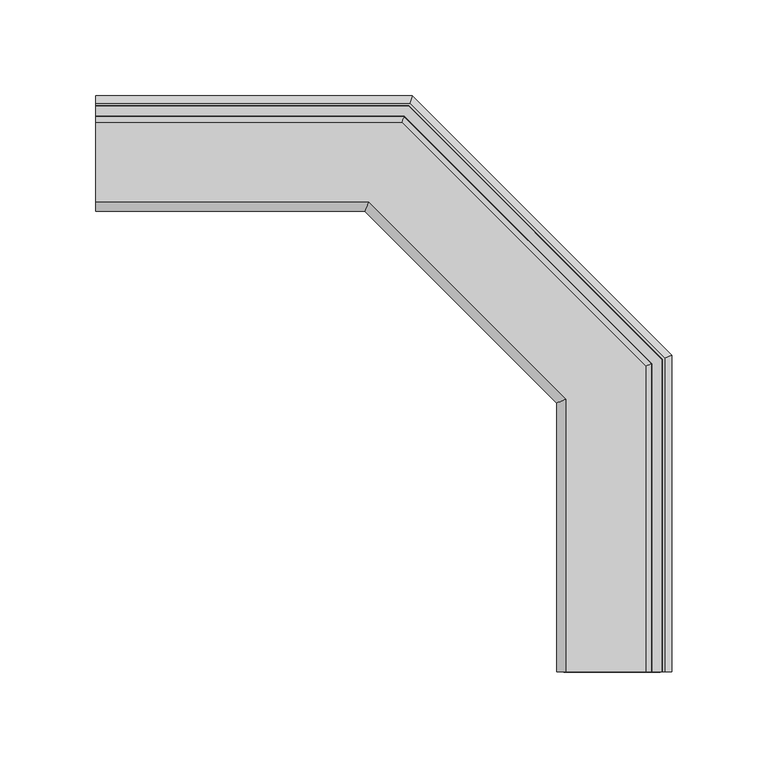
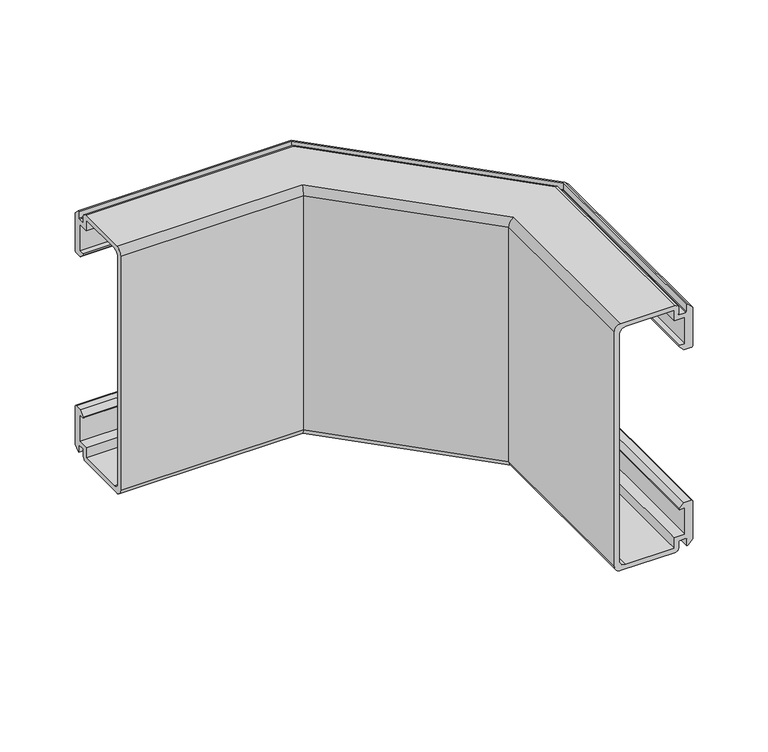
"""IFC4 building model written with IfcOpenShell, lengths in millimetres: cable carrier fitting geometry, CXBPE_Vertical_Outside_Bend-Basorplast : Basorplast CXBPE."""

from ifc_helpers import new_model, si_unit, frame, origin, place, context, project, spatial, polyline, circle_curve, ellipse_curve, source, transform, mapped, element, save
from ifc_brep_helpers import plane_surface, cylinder_surface, revolved_surface, advanced_brep


def cable_carrier_fitting_805e520f(model_context):
    return source(origin(), model_context, "Body", "AdvancedBrep", [
        advanced_brep(
        [(-240.0, 49.6464466, -65.6464466), (-240.0, 53.2928932, -62.0), (-240.0, 59.0, -62.0), (-240.0, 60.0, -63.0), (-240.0, 60.0, -93.8), (-240.0, 56.3, -97.5), (-240.0, 55.3, -97.5), (-240.0, 55.3, -92.0), (-240.0, 54.8, -91.5), (-240.0, 49.8, -91.5), (-240.0, 49.3, -92.0), (-240.0, 49.3, -97.0), (-240.0, 46.3, -100.0), (-240.0, 5.0, -100.0), (-240.0, 0.0, -95.0), (-240.0, 0.0, 95.0), (-240.0, 5.0, 100.0), (-240.0, 46.3, 100.0), (-240.0, 49.3, 97.0), (-240.0, 49.3, 92.0), (-240.0, 49.8, 91.5), (-240.0, 54.8, 91.5), (-240.0, 55.3, 92.0), (-240.0, 55.3, 97.5), (-240.0, 56.3, 97.5), (-240.0, 60.0, 93.8), (-240.0, 60.0, 63.0), (-240.0, 59.0, 62.0), (-240.0, 53.2928932, 62.0), (-240.0, 49.6464466, 65.6464466), (-240.0, 50.0, 66.5), (-240.0, 54.0, 66.5), (-240.0, 54.0, 87.9), (-240.0, 45.7, 87.9), (-240.0, 45.7, 96.4), (-240.0, 8.6, 96.4), (-240.0, 3.6, 91.4), (-240.0, 3.6, -91.4), (-240.0, 8.6, -96.4), (-240.0, 45.7, -96.4), (-240.0, 45.7, -87.9), (-240.0, 54.0, -87.9), (-240.0, 54.0, -66.5), (-240.0, 50.0, -66.5), (49.6464466, -240.0, -65.6464466), (50.0, -240.0, -66.5), (54.0, -240.0, -66.5), (54.0, -240.0, -87.9), (45.7, -240.0, -87.9), (45.7, -240.0, -96.4), (8.6, -240.0, -96.4), (3.6, -240.0, -91.4), (3.6, -240.0, 91.4), (8.6, -240.0, 96.4), (45.7, -240.0, 96.4), (45.7, -240.0, 87.9), (54.0, -240.0, 87.9), (54.0, -240.0, 66.5), (50.0, -240.0, 66.5), (49.6464466, -240.0, 65.6464466), (53.2928932, -240.0, 62.0), (59.0, -240.0, 62.0), (60.0, -240.0, 63.0), (60.0, -240.0, 93.8), (56.3, -240.0, 97.5), (55.3, -240.0, 97.5), (55.3, -240.0, 92.0), (54.8, -240.0, 91.5), (49.8, -240.0, 91.5), (49.3, -240.0, 92.0), (49.3, -240.0, 97.0), (46.3, -240.0, 100.0), (5.0, -240.0, 100.0), (0.0, -240.0, 95.0), (0.0, -240.0, -95.0), (5.0, -240.0, -100.0), (46.3, -240.0, -100.0), (49.3, -240.0, -97.0), (49.3, -240.0, -92.0), (49.8, -240.0, -91.5), (54.8, -240.0, -91.5), (55.3, -240.0, -92.0), (55.3, -240.0, -97.5), (56.3, -240.0, -97.5), (60.0, -240.0, -93.8), (60.0, -240.0, -63.0), (59.0, -240.0, -62.0), (53.2928932, -240.0, -62.0), (-79.2893219, 50.0, -66.5), (-79.4357685, 49.6464466, -65.6464466), (-77.6324676, 54.0, -66.5), (54.0, -77.6324676, -66.5), (50.0, -79.2893219, -66.5), (-77.6324676, 54.0, -87.9), (-81.0704402, 45.7, -87.9), (45.7, -81.0704402, -87.9), (54.0, -77.6324676, -87.9), (-81.0704402, 45.7, -96.4), (-96.4377634, 8.6, -96.4), (8.6, -96.4377634, -96.4), (45.7, -81.0704402, -96.4), (-98.5088312, 3.6, -91.4), (-98.5088312, 3.6, 91.4), (-96.4377634, 8.6, 96.4), (-81.0704402, 45.7, 96.4), (45.7, -81.0704402, 96.4), (8.6, -96.4377634, 96.4), (-81.0704402, 45.7, 87.9), (-77.6324676, 54.0, 87.9), (54.0, -77.6324676, 87.9), (45.7, -81.0704402, 87.9), (-77.6324676, 54.0, 66.5), (-79.2893219, 50.0, 66.5), (50.0, -79.2893219, 66.5), (54.0, -77.6324676, 66.5), (-79.4357685, 49.6464466, 65.6464466), (-77.9253609, 53.2928932, 62.0), (-75.5613998, 59.0, 62.0), (59.0, -75.5613998, 62.0), (53.2928932, -77.9253609, 62.0), (-75.1471863, 60.0, 63.0), (-75.1471863, 60.0, 93.8), (-76.6797764, 56.3, 97.5), (-77.09399, 55.3, 97.5), (55.3, -77.09399, 97.5), (56.3, -76.6797764, 97.5), (-77.09399, 55.3, 92.0), (-77.3010968, 54.8, 91.5), (-79.3721646, 49.8, 91.5), (49.8, -79.3721646, 91.5), (54.8, -77.3010968, 91.5), (-79.5792714, 49.3, 92.0), (-79.5792714, 49.3, 97.0), (-80.8219121, 46.3, 100.0), (-97.9289322, 5.0, 100.0), (5.0, -97.9289322, 100.0), (46.3, -80.8219121, 100.0), (-100.0, 0.0, 95.0), (-100.0, 0.0, -95.0), (-97.9289322, 5.0, -100.0), (-80.8219121, 46.3, -100.0), (46.3, -80.8219121, -100.0), (5.0, -97.9289322, -100.0), (-79.5792714, 49.3, -97.0), (-79.5792714, 49.3, -92.0), (-79.3721646, 49.8, -91.5), (-77.3010968, 54.8, -91.5), (54.8, -77.3010968, -91.5), (49.8, -79.3721646, -91.5), (-77.09399, 55.3, -92.0), (-77.09399, 55.3, -97.5), (-76.6797764, 56.3, -97.5), (56.3, -76.6797764, -97.5), (55.3, -77.09399, -97.5), (-75.1471863, 60.0, -93.8), (-75.1471863, 60.0, -63.0), (-75.5613998, 59.0, -62.0), (-77.9253609, 53.2928932, -62.0), (53.2928932, -77.9253609, -62.0), (59.0, -75.5613998, -62.0), (49.6464466, -79.4357685, -65.6464466), (3.6, -98.5088312, -91.4), (3.6, -98.5088312, 91.4), (49.6464466, -79.4357685, 65.6464466), (60.0, -75.1471863, 63.0), (60.0, -75.1471863, 93.8), (55.3, -77.09399, 92.0), (49.3, -79.5792714, 92.0), (49.3, -79.5792714, 97.0), (0.0, -100.0, 95.0), (0.0, -100.0, -95.0), (49.3, -79.5792714, -97.0), (49.3, -79.5792714, -92.0), (55.3, -77.09399, -92.0), (60.0, -75.1471863, -93.8), (60.0, -75.1471863, -63.0)],
        [
            (0, 1),
            (1, 2),
            (2, 3, circle_curve(frame((-240.0, 59.0, -63.0), z_axis=(-1.0, 0.0, 0.0), x_axis=(0.0, 0.0, 1.0)), 1.0)),
            (3, 4),
            (4, 5),
            (5, 6),
            (6, 7),
            (7, 8, circle_curve(frame((-240.0, 54.8, -92.0), z_axis=(1.0, 0.0, 0.0), x_axis=(0.0, 0.0, 1.0)), 0.5)),
            (8, 9),
            (9, 10, circle_curve(frame((-240.0, 49.8, -92.0), z_axis=(1.0, 0.0, 0.0), x_axis=(0.0, 0.0, 1.0)), 0.5)),
            (10, 11),
            (11, 12, circle_curve(frame((-240.0, 46.3, -97.0), z_axis=(-1.0, 0.0, 0.0), x_axis=(0.0, 0.0, 1.0)), 3.0)),
            (12, 13),
            (13, 14, circle_curve(frame((-240.0, 5.0, -95.0), z_axis=(-1.0, 0.0, 0.0), x_axis=(0.0, 0.0, 1.0)), 5.0)),
            (14, 15),
            (15, 16, circle_curve(frame((-240.0, 5.0, 95.0), z_axis=(-1.0, 0.0, 0.0), x_axis=(0.0, 0.0, 1.0)), 5.0)),
            (16, 17),
            (17, 18, circle_curve(frame((-240.0, 46.3, 97.0), z_axis=(-1.0, 0.0, 0.0), x_axis=(0.0, 0.0, 1.0)), 3.0)),
            (18, 19),
            (19, 20, circle_curve(frame((-240.0, 49.8, 92.0), z_axis=(1.0, 0.0, 0.0), x_axis=(0.0, 0.0, 1.0)), 0.5)),
            (20, 21),
            (21, 22, circle_curve(frame((-240.0, 54.8, 92.0), z_axis=(1.0, 0.0, 0.0), x_axis=(0.0, 0.0, 1.0)), 0.5)),
            (22, 23),
            (23, 24),
            (24, 25),
            (25, 26),
            (26, 27, circle_curve(frame((-240.0, 59.0, 63.0), z_axis=(-1.0, 0.0, 0.0), x_axis=(0.0, 0.0, 1.0)), 1.0)),
            (27, 28),
            (28, 29),
            (29, 30, circle_curve(frame((-240.0, 50.0, 66.0), z_axis=(-1.0, 0.0, 0.0), x_axis=(0.0, 0.0, 1.0)), 0.5)),
            (30, 31),
            (31, 32),
            (32, 33),
            (33, 34),
            (34, 35),
            (35, 36, circle_curve(frame((-240.0, 8.6, 91.4), z_axis=(1.0, 0.0, 0.0), x_axis=(0.0, 0.0, 1.0)), 5.0)),
            (36, 37),
            (37, 38, circle_curve(frame((-240.0, 8.6, -91.4), z_axis=(1.0, 0.0, 0.0), x_axis=(0.0, 0.0, 1.0)), 5.0)),
            (38, 39),
            (39, 40),
            (40, 41),
            (41, 42),
            (42, 43),
            (43, 0, circle_curve(frame((-240.0, 50.0, -66.0), z_axis=(-1.0, 0.0, 0.0), x_axis=(0.0, 0.0, 1.0)), 0.5)),
            (44, 45, circle_curve(frame((50.0, -240.0, -66.0), z_axis=(0.0, -1.0, 0.0), x_axis=(0.0, 0.0, 1.0)), 0.5)),
            (45, 46),
            (46, 47),
            (47, 48),
            (48, 49),
            (49, 50),
            (50, 51, circle_curve(frame((8.6, -240.0, -91.4), z_axis=(0.0, 1.0, 0.0), x_axis=(0.0, 0.0, 1.0)), 5.0)),
            (51, 52),
            (52, 53, circle_curve(frame((8.6, -240.0, 91.4), z_axis=(0.0, 1.0, 0.0), x_axis=(0.0, 0.0, 1.0)), 5.0)),
            (53, 54),
            (54, 55),
            (55, 56),
            (56, 57),
            (57, 58),
            (58, 59, circle_curve(frame((50.0, -240.0, 66.0), z_axis=(0.0, -1.0, 0.0), x_axis=(0.0, 0.0, 1.0)), 0.5)),
            (59, 60),
            (60, 61),
            (61, 62, circle_curve(frame((59.0, -240.0, 63.0), z_axis=(0.0, -1.0, 0.0), x_axis=(0.0, 0.0, 1.0)), 1.0)),
            (62, 63),
            (63, 64),
            (64, 65),
            (65, 66),
            (66, 67, circle_curve(frame((54.8, -240.0, 92.0), z_axis=(0.0, 1.0, 0.0), x_axis=(0.0, 0.0, 1.0)), 0.5)),
            (67, 68),
            (68, 69, circle_curve(frame((49.8, -240.0, 92.0), z_axis=(0.0, 1.0, 0.0), x_axis=(0.0, 0.0, 1.0)), 0.5)),
            (69, 70),
            (70, 71, circle_curve(frame((46.3, -240.0, 97.0), z_axis=(0.0, -1.0, 0.0), x_axis=(0.0, 0.0, 1.0)), 3.0)),
            (71, 72),
            (72, 73, circle_curve(frame((5.0, -240.0, 95.0), z_axis=(0.0, -1.0, 0.0), x_axis=(0.0, 0.0, 1.0)), 5.0)),
            (73, 74),
            (74, 75, circle_curve(frame((5.0, -240.0, -95.0), z_axis=(0.0, -1.0, 0.0), x_axis=(0.0, 0.0, 1.0)), 5.0)),
            (75, 76),
            (76, 77, circle_curve(frame((46.3, -240.0, -97.0), z_axis=(0.0, -1.0, 0.0), x_axis=(0.0, 0.0, 1.0)), 3.0)),
            (77, 78),
            (78, 79, circle_curve(frame((49.8, -240.0, -92.0), z_axis=(0.0, 1.0, 0.0), x_axis=(0.0, 0.0, 1.0)), 0.5)),
            (79, 80),
            (80, 81, circle_curve(frame((54.8, -240.0, -92.0), z_axis=(0.0, 1.0, 0.0), x_axis=(0.0, 0.0, 1.0)), 0.5)),
            (81, 82),
            (82, 83),
            (83, 84),
            (84, 85),
            (85, 86, circle_curve(frame((59.0, -240.0, -63.0), z_axis=(0.0, -1.0, 0.0), x_axis=(0.0, 0.0, 1.0)), 1.0)),
            (86, 87),
            (87, 44),
            (43, 88),
            (88, 89, ellipse_curve(frame((-79.2893219, 50.0, -66.0), z_axis=(-0.923879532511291, 0.3826834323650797, 0.0), x_axis=(-0.3826834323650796, -0.9238795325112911, 0.0)), 0.5411961, 0.5)),
            (89, 0),
            (42, 90),
            (90, 91),
            (91, 46),
            (45, 92),
            (92, 88),
            (41, 93),
            (93, 90),
            (40, 94),
            (94, 95),
            (95, 48),
            (47, 96),
            (96, 93),
            (39, 97),
            (97, 94),
            (38, 98),
            (98, 99),
            (99, 50),
            (49, 100),
            (100, 97),
            (37, 101),
            (101, 98, ellipse_curve(frame((-96.4377634, 8.6, -91.4), z_axis=(0.923879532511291, -0.3826834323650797, 0.0), x_axis=(0.3826834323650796, 0.9238795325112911, 0.0)), 5.411961, 5.0)),
            (36, 102),
            (102, 101),
            (35, 103),
            (103, 102, ellipse_curve(frame((-96.4377634, 8.6, 91.4), z_axis=(0.923879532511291, -0.3826834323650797, 0.0), x_axis=(0.3826834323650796, 0.9238795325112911, 0.0)), 5.411961, 5.0)),
            (34, 104),
            (104, 105),
            (105, 54),
            (53, 106),
            (106, 103),
            (33, 107),
            (107, 104),
            (32, 108),
            (108, 109),
            (109, 56),
            (55, 110),
            (110, 107),
            (31, 111),
            (111, 108),
            (30, 112),
            (112, 113),
            (113, 58),
            (57, 114),
            (114, 111),
            (29, 115),
            (115, 112, ellipse_curve(frame((-79.2893219, 50.0, 66.0), z_axis=(-0.923879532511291, 0.3826834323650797, 0.0), x_axis=(-0.3826834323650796, -0.9238795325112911, 0.0)), 0.5411961, 0.5)),
            (28, 116),
            (116, 115),
            (27, 117),
            (117, 118),
            (118, 61),
            (60, 119),
            (119, 116),
            (26, 120),
            (120, 117, ellipse_curve(frame((-75.5613998, 59.0, 63.0), z_axis=(-0.923879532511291, 0.3826834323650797, 0.0), x_axis=(-0.3826834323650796, -0.9238795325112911, 0.0)), 1.0823922, 1.0)),
            (25, 121),
            (121, 120),
            (24, 122),
            (122, 121),
            (23, 123),
            (123, 124),
            (124, 65),
            (64, 125),
            (125, 122),
            (22, 126),
            (126, 123),
            (21, 127),
            (127, 126, ellipse_curve(frame((-77.3010968, 54.8, 92.0), z_axis=(0.923879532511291, -0.3826834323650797, 0.0), x_axis=(0.3826834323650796, 0.9238795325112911, 0.0)), 0.5411961, 0.5)),
            (20, 128),
            (128, 129),
            (129, 68),
            (67, 130),
            (130, 127),
            (19, 131),
            (131, 128, ellipse_curve(frame((-79.3721646, 49.8, 92.0), z_axis=(0.923879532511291, -0.3826834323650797, 0.0), x_axis=(0.3826834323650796, 0.9238795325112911, 0.0)), 0.5411961, 0.5)),
            (18, 132),
            (132, 131),
            (17, 133),
            (133, 132, ellipse_curve(frame((-80.8219121, 46.3, 97.0), z_axis=(-0.923879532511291, 0.3826834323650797, 0.0), x_axis=(-0.3826834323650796, -0.9238795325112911, 0.0)), 3.2471766, 3.0)),
            (16, 134),
            (134, 135),
            (135, 72),
            (71, 136),
            (136, 133),
            (15, 137),
            (137, 134, ellipse_curve(frame((-97.9289322, 5.0, 95.0), z_axis=(-0.923879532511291, 0.3826834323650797, 0.0), x_axis=(-0.3826834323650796, -0.9238795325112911, 0.0)), 5.411961, 5.0)),
            (14, 138),
            (138, 137),
            (13, 139),
            (139, 138, ellipse_curve(frame((-97.9289322, 5.0, -95.0), z_axis=(-0.923879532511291, 0.3826834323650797, 0.0), x_axis=(-0.3826834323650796, -0.9238795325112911, 0.0)), 5.411961, 5.0)),
            (12, 140),
            (140, 141),
            (141, 76),
            (75, 142),
            (142, 139),
            (11, 143),
            (143, 140, ellipse_curve(frame((-80.8219121, 46.3, -97.0), z_axis=(-0.923879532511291, 0.3826834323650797, 0.0), x_axis=(-0.3826834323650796, -0.9238795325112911, 0.0)), 3.2471766, 3.0)),
            (10, 144),
            (144, 143),
            (9, 145),
            (145, 144, ellipse_curve(frame((-79.3721646, 49.8, -92.0), z_axis=(0.923879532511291, -0.3826834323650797, 0.0), x_axis=(0.3826834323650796, 0.9238795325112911, 0.0)), 0.5411961, 0.5)),
            (8, 146),
            (146, 147),
            (147, 80),
            (79, 148),
            (148, 145),
            (7, 149),
            (149, 146, ellipse_curve(frame((-77.3010968, 54.8, -92.0), z_axis=(0.923879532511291, -0.3826834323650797, 0.0), x_axis=(0.3826834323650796, 0.9238795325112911, 0.0)), 0.5411961, 0.5)),
            (6, 150),
            (150, 149),
            (5, 151),
            (151, 152),
            (152, 83),
            (82, 153),
            (153, 150),
            (4, 154),
            (154, 151),
            (3, 155),
            (155, 154),
            (2, 156),
            (156, 155, ellipse_curve(frame((-75.5613998, 59.0, -63.0), z_axis=(-0.923879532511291, 0.3826834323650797, 0.0), x_axis=(-0.3826834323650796, -0.9238795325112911, 0.0)), 1.0823922, 1.0)),
            (1, 157),
            (157, 158),
            (158, 87),
            (86, 159),
            (159, 156),
            (89, 157),
            (44, 160),
            (160, 92, ellipse_curve(frame((50.0, -79.2893219, -66.0), z_axis=(0.38268343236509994, -0.9238795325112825, 0.0), x_axis=(0.9238795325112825, 0.38268343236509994, 0.0)), 0.5411961, 0.5)),
            (91, 96),
            (95, 100),
            (161, 51),
            (99, 161, ellipse_curve(frame((8.6, -96.4377634, -91.4), z_axis=(-0.38268343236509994, 0.9238795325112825, 0.0), x_axis=(-0.9238795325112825, -0.38268343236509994, 0.0)), 5.411961, 5.0)),
            (162, 52),
            (161, 162),
            (162, 106, ellipse_curve(frame((8.6, -96.4377634, 91.4), z_axis=(-0.38268343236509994, 0.9238795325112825, 0.0), x_axis=(-0.9238795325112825, -0.38268343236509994, 0.0)), 5.411961, 5.0)),
            (105, 110),
            (109, 114),
            (163, 59),
            (113, 163, ellipse_curve(frame((50.0, -79.2893219, 66.0), z_axis=(0.38268343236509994, -0.9238795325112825, 0.0), x_axis=(0.9238795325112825, 0.38268343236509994, 0.0)), 0.5411961, 0.5)),
            (163, 119),
            (164, 62),
            (118, 164, ellipse_curve(frame((59.0, -75.5613998, 63.0), z_axis=(0.38268343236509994, -0.9238795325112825, 0.0), x_axis=(0.9238795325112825, 0.38268343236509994, 0.0)), 1.0823922, 1.0)),
            (165, 63),
            (164, 165),
            (165, 125),
            (166, 66),
            (124, 166),
            (166, 130, ellipse_curve(frame((54.8, -77.3010968, 92.0), z_axis=(-0.38268343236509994, 0.9238795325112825, 0.0), x_axis=(-0.9238795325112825, -0.38268343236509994, 0.0)), 0.5411961, 0.5)),
            (167, 69),
            (129, 167, ellipse_curve(frame((49.8, -79.3721646, 92.0), z_axis=(-0.38268343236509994, 0.9238795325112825, 0.0), x_axis=(-0.9238795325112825, -0.38268343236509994, 0.0)), 0.5411961, 0.5)),
            (168, 70),
            (167, 168),
            (168, 136, ellipse_curve(frame((46.3, -80.8219121, 97.0), z_axis=(0.38268343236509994, -0.9238795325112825, 0.0), x_axis=(0.9238795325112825, 0.38268343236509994, 0.0)), 3.2471766, 3.0)),
            (169, 73),
            (135, 169, ellipse_curve(frame((5.0, -97.9289322, 95.0), z_axis=(0.38268343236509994, -0.9238795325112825, 0.0), x_axis=(0.9238795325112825, 0.38268343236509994, 0.0)), 5.411961, 5.0)),
            (170, 74),
            (169, 170),
            (170, 142, ellipse_curve(frame((5.0, -97.9289322, -95.0), z_axis=(0.38268343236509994, -0.9238795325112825, 0.0), x_axis=(0.9238795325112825, 0.38268343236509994, 0.0)), 5.411961, 5.0)),
            (171, 77),
            (141, 171, ellipse_curve(frame((46.3, -80.8219121, -97.0), z_axis=(0.38268343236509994, -0.9238795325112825, 0.0), x_axis=(0.9238795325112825, 0.38268343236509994, 0.0)), 3.2471766, 3.0)),
            (172, 78),
            (171, 172),
            (172, 148, ellipse_curve(frame((49.8, -79.3721646, -92.0), z_axis=(-0.38268343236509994, 0.9238795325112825, 0.0), x_axis=(-0.9238795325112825, -0.38268343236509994, 0.0)), 0.5411961, 0.5)),
            (173, 81),
            (147, 173, ellipse_curve(frame((54.8, -77.3010968, -92.0), z_axis=(-0.38268343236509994, 0.9238795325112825, 0.0), x_axis=(-0.9238795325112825, -0.38268343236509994, 0.0)), 0.5411961, 0.5)),
            (173, 153),
            (174, 84),
            (152, 174),
            (175, 85),
            (174, 175),
            (175, 159, ellipse_curve(frame((59.0, -75.5613998, -63.0), z_axis=(0.38268343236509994, -0.9238795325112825, 0.0), x_axis=(0.9238795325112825, 0.38268343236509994, 0.0)), 1.0823922, 1.0)),
            (158, 160),
            (160, 89),
            (101, 161),
            (102, 162),
            (115, 163),
            (120, 164),
            (121, 165),
            (126, 166),
            (131, 167),
            (132, 168),
            (137, 169),
            (138, 170),
            (143, 171),
            (144, 172),
            (149, 173),
            (154, 174),
            (155, 175),
        ],
        [
            plane_surface(frame((-240.0, 30.0, 0.0), z_axis=(-1.0, 0.0, 0.0), x_axis=(0.0, 0.0, 1.0))),
            plane_surface(frame((30.0, -240.0, 0.0), z_axis=(0.0, -1.0, 0.0), x_axis=(0.0, 0.0, 1.0))),
            cylinder_surface(frame((-240.0, 50.0, -66.0), z_axis=(-1.0, 0.0, 0.0), x_axis=(0.0, 0.0, 1.0)), 0.5),
            plane_surface(frame((-240.0, 50.0, -66.5), z_axis=(0.0, 0.0, -1.0), x_axis=(1.0, 0.0, 0.0))),
            plane_surface(frame((-240.0, 54.0, -66.5), z_axis=(0.0, -1.0, 0.0), x_axis=(1.0, 0.0, 0.0))),
            plane_surface(frame((-240.0, 54.0, -87.9), z_axis=(0.0, 0.0, 1.0), x_axis=(1.0, 0.0, 0.0))),
            plane_surface(frame((-240.0, 45.7, -87.9), z_axis=(0.0, -1.0, 0.0), x_axis=(1.0, 0.0, 0.0))),
            plane_surface(frame((-240.0, 45.7, -96.4), z_axis=(0.0, 0.0, 1.0), x_axis=(1.0, 0.0, 0.0))),
            revolved_surface(polyline([(-94.36669558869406, 8.6, -86.4), (-240.0, 8.6, -86.4)]), (-240.0, 8.6, -91.4), (1.0, 0.0, 0.0)),
            plane_surface(frame((-240.0, 3.6, -91.4), z_axis=(0.0, 1.0, 0.0), x_axis=(1.0, 0.0, 0.0))),
            revolved_surface(polyline([(-94.36669558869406, 8.6, 96.4), (-240.0, 8.6, 96.4)]), (-240.0, 8.6, 91.4), (1.0, 0.0, 0.0)),
            plane_surface(frame((-240.0, 8.6, 96.4), z_axis=(0.0, 0.0, -1.0), x_axis=(1.0, 0.0, 0.0))),
            plane_surface(frame((-240.0, 45.7, 96.4), z_axis=(0.0, -1.0, 0.0), x_axis=(1.0, 0.0, 0.0))),
            plane_surface(frame((-240.0, 45.7, 87.9), z_axis=(0.0, 0.0, -1.0), x_axis=(1.0, 0.0, 0.0))),
            plane_surface(frame((-240.0, 54.0, 87.9), z_axis=(0.0, -1.0, 0.0), x_axis=(1.0, 0.0, 0.0))),
            plane_surface(frame((-240.0, 54.0, 66.5), z_axis=(0.0, 0.0, 1.0), x_axis=(1.0, 0.0, 0.0))),
            cylinder_surface(frame((-240.0, 50.0, 66.0), z_axis=(-1.0, 0.0, 0.0), x_axis=(0.0, 0.0, 1.0)), 0.5),
            plane_surface(frame((-240.0, 49.6464466, 65.6464466), z_axis=(0.0, -0.7071067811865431, -0.707106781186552), x_axis=(1.0, 0.0, 0.0))),
            plane_surface(frame((-240.0, 53.2928932, 62.0), z_axis=(0.0, 0.0, -1.0), x_axis=(1.0, 0.0, 0.0))),
            cylinder_surface(frame((-240.0, 59.0, 63.0), z_axis=(-1.0, 0.0, 0.0), x_axis=(0.0, 0.0, 1.0)), 1.0),
            plane_surface(frame((-240.0, 60.0, 63.0), z_axis=(0.0, 1.0, 0.0), x_axis=(1.0, 0.0, 0.0))),
            plane_surface(frame((-240.0, 60.0, 93.8), z_axis=(0.0, 0.7071067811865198, 0.7071067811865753), x_axis=(1.0, 0.0, 0.0))),
            plane_surface(frame((-240.0, 56.3, 97.5), z_axis=(0.0, 0.0, 1.0), x_axis=(1.0, 0.0, 0.0))),
            plane_surface(frame((-240.0, 55.3, 97.5), z_axis=(0.0, -1.0, 0.0), x_axis=(1.0, 0.0, 0.0))),
            revolved_surface(polyline([(-77.09399000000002, 54.8, 92.5), (-240.0, 54.8, 92.5)]), (-240.0, 54.8, 92.0), (1.0, 0.0, 0.0)),
            plane_surface(frame((-240.0, 54.8, 91.5), z_axis=(0.0, 0.0, 1.0), x_axis=(1.0, 0.0, 0.0))),
            revolved_surface(polyline([(-79.16505781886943, 49.8, 92.5), (-240.0, 49.8, 92.5)]), (-240.0, 49.8, 92.0), (1.0, 0.0, 0.0)),
            plane_surface(frame((-240.0, 49.3, 92.0), z_axis=(0.0, 1.0, 0.0), x_axis=(1.0, 0.0, 0.0))),
            cylinder_surface(frame((-240.0, 46.3, 97.0), z_axis=(-1.0, 0.0, 0.0), x_axis=(0.0, 0.0, 1.0)), 3.0),
            plane_surface(frame((-240.0, 46.3, 100.0), z_axis=(0.0, 0.0, 1.0), x_axis=(1.0, 0.0, 0.0))),
            cylinder_surface(frame((-240.0, 5.0, 95.0), z_axis=(-1.0, 0.0, 0.0), x_axis=(0.0, 0.0, 1.0)), 5.0),
            plane_surface(frame((-240.0, 0.0, 95.0), z_axis=(0.0, -1.0, 0.0), x_axis=(1.0, 0.0, 0.0))),
            cylinder_surface(frame((-240.0, 5.0, -95.0), z_axis=(-1.0, 0.0, 0.0), x_axis=(0.0, 0.0, 1.0)), 5.0),
            plane_surface(frame((-240.0, 5.0, -100.0), z_axis=(0.0, 0.0, -1.0), x_axis=(1.0, 0.0, 0.0))),
            cylinder_surface(frame((-240.0, 46.3, -97.0), z_axis=(-1.0, 0.0, 0.0), x_axis=(0.0, 0.0, 1.0)), 3.0),
            plane_surface(frame((-240.0, 49.3, -97.0), z_axis=(0.0, 1.0, 0.0), x_axis=(1.0, 0.0, 0.0))),
            revolved_surface(polyline([(-79.16505781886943, 49.8, -91.5), (-240.0, 49.8, -91.5)]), (-240.0, 49.8, -92.0), (1.0, 0.0, 0.0)),
            plane_surface(frame((-240.0, 49.8, -91.5), z_axis=(0.0, 0.0, -1.0), x_axis=(1.0, 0.0, 0.0))),
            revolved_surface(polyline([(-77.09399000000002, 54.8, -91.5), (-240.0, 54.8, -91.5)]), (-240.0, 54.8, -92.0), (1.0, 0.0, 0.0)),
            plane_surface(frame((-240.0, 55.3, -92.0), z_axis=(0.0, -1.0, 0.0), x_axis=(1.0, 0.0, 0.0))),
            plane_surface(frame((-240.0, 55.3, -97.5), z_axis=(0.0, 0.0, -1.0), x_axis=(1.0, 0.0, 0.0))),
            plane_surface(frame((-240.0, 56.3, -97.5), z_axis=(0.0, 0.7071067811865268, -0.7071067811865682), x_axis=(1.0, 0.0, 0.0))),
            plane_surface(frame((-240.0, 60.0, -93.8), z_axis=(0.0, 1.0, 0.0), x_axis=(1.0, 0.0, 0.0))),
            cylinder_surface(frame((-240.0, 59.0, -63.0), z_axis=(-1.0, 0.0, 0.0), x_axis=(0.0, 0.0, 1.0)), 1.0),
            plane_surface(frame((-240.0, 59.0, -62.0), z_axis=(0.0, 0.0, 1.0), x_axis=(1.0, 0.0, 0.0))),
            plane_surface(frame((-240.0, 53.2928932, -62.0), z_axis=(0.0, -0.7071067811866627, 0.7071067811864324), x_axis=(1.0, 0.0, 0.0))),
            cylinder_surface(frame((50.0, -87.5735931, -66.0), z_axis=(0.0, 1.0, 0.0), x_axis=(0.0, 0.0, 1.0)), 0.5),
            plane_surface(frame((54.0, -77.6324676, -66.5), z_axis=(-1.0, 0.0, 0.0), x_axis=(0.0, -1.0, 0.0))),
            plane_surface(frame((45.7, -81.0704402, -87.9), z_axis=(-1.0, 0.0, 0.0), x_axis=(0.0, -1.0, 0.0))),
            revolved_surface(polyline([(8.6, -240.0, -86.4), (8.6, -94.36669558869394, -86.4)]), (8.6, -87.5735931, -91.4), (0.0, -1.0, 0.0)),
            plane_surface(frame((3.6, -98.5088312, -91.4), z_axis=(1.0, 0.0, 0.0), x_axis=(0.0, -1.0, 0.0))),
            revolved_surface(polyline([(8.6, -240.0, 96.4), (8.6, -94.36669558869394, 96.4)]), (8.6, -87.5735931, 91.4), (0.0, -1.0, 0.0)),
            plane_surface(frame((45.7, -81.0704402, 96.4), z_axis=(-1.0, 0.0, 0.0), x_axis=(0.0, -1.0, 0.0))),
            plane_surface(frame((54.0, -77.6324676, 87.9), z_axis=(-1.0, 0.0, 0.0), x_axis=(0.0, -1.0, 0.0))),
            cylinder_surface(frame((50.0, -87.5735931, 66.0), z_axis=(0.0, 1.0, 0.0), x_axis=(0.0, 0.0, 1.0)), 0.5),
            plane_surface(frame((49.6464466, -79.4357685, 65.6464466), z_axis=(-0.7071067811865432, 0.0, -0.7071067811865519), x_axis=(0.0, -1.0, 0.0))),
            cylinder_surface(frame((59.0, -87.5735931, 63.0), z_axis=(0.0, 1.0, 0.0), x_axis=(0.0, 0.0, 1.0)), 1.0),
            plane_surface(frame((60.0, -75.1471863, 63.0), z_axis=(1.0, 0.0, 0.0), x_axis=(0.0, -1.0, 0.0))),
            plane_surface(frame((60.0, -75.1471863, 93.8), z_axis=(0.7071067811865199, 0.0, 0.7071067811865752), x_axis=(0.0, -1.0, 0.0))),
            plane_surface(frame((55.3, -77.09399, 97.5), z_axis=(-1.0, 0.0, 0.0), x_axis=(0.0, -1.0, 0.0))),
            revolved_surface(polyline([(54.8, -240.0, 92.5), (54.8, -77.09399, 92.5)]), (54.8, -87.5735931, 92.0), (0.0, -1.0, 0.0)),
            revolved_surface(polyline([(49.8, -240.0, 92.5), (49.8, -79.1650578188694, 92.5)]), (49.8, -87.5735931, 92.0), (0.0, -1.0, 0.0)),
            plane_surface(frame((49.3, -79.5792714, 92.0), z_axis=(1.0, 0.0, 0.0), x_axis=(0.0, -1.0, 0.0))),
            cylinder_surface(frame((46.3, -87.5735931, 97.0), z_axis=(0.0, 1.0, 0.0), x_axis=(0.0, 0.0, 1.0)), 3.0),
            cylinder_surface(frame((5.0, -87.5735931, 95.0), z_axis=(0.0, 1.0, 0.0), x_axis=(0.0, 0.0, 1.0)), 5.0),
            plane_surface(frame((0.0, -100.0, 95.0), z_axis=(-1.0, 0.0, 0.0), x_axis=(0.0, -1.0, 0.0))),
            cylinder_surface(frame((5.0, -87.5735931, -95.0), z_axis=(0.0, 1.0, 0.0), x_axis=(0.0, 0.0, 1.0)), 5.0),
            cylinder_surface(frame((46.3, -87.5735931, -97.0), z_axis=(0.0, 1.0, 0.0), x_axis=(0.0, 0.0, 1.0)), 3.0),
            plane_surface(frame((49.3, -79.5792714, -97.0), z_axis=(1.0, 0.0, 0.0), x_axis=(0.0, -1.0, 0.0))),
            revolved_surface(polyline([(49.8, -240.0, -91.5), (49.8, -79.1650578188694, -91.5)]), (49.8, -87.5735931, -92.0), (0.0, -1.0, 0.0)),
            revolved_surface(polyline([(54.8, -240.0, -91.5), (54.8, -77.09399, -91.5)]), (54.8, -87.5735931, -92.0), (0.0, -1.0, 0.0)),
            plane_surface(frame((55.3, -77.09399, -92.0), z_axis=(-1.0, 0.0, 0.0), x_axis=(0.0, -1.0, 0.0))),
            plane_surface(frame((56.3, -76.6797764, -97.5), z_axis=(0.7071067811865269, 0.0, -0.7071067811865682), x_axis=(0.0, -1.0, 0.0))),
            plane_surface(frame((60.0, -75.1471863, -93.8), z_axis=(1.0, 0.0, 0.0), x_axis=(0.0, -1.0, 0.0))),
            cylinder_surface(frame((59.0, -87.5735931, -63.0), z_axis=(0.0, 1.0, 0.0), x_axis=(0.0, 0.0, 1.0)), 1.0),
            plane_surface(frame((53.2928932, -77.9253609, -62.0), z_axis=(-0.7071067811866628, 0.0, 0.7071067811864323), x_axis=(0.0, -1.0, 0.0))),
            cylinder_surface(frame((-73.4314575, 44.1421356, -66.0), z_axis=(-0.707106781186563, 0.7071067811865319, 0.0), x_axis=(0.0, 0.0, 1.0)), 0.5),
            plane_surface(frame((-77.6324676, 54.0, -66.5), z_axis=(-0.707106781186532, -0.707106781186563, 0.0), x_axis=(0.707106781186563, -0.707106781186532, 0.0))),
            plane_surface(frame((-81.0704402, 45.7, -87.9), z_axis=(-0.7071067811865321, -0.707106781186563, 0.0), x_axis=(0.707106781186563, -0.7071067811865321, 0.0))),
            revolved_surface(polyline([(10.064466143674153, -97.90222944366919, -86.4), (-97.9022294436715, 10.064466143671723, -86.4)]), (-102.7056782, 14.8679149, -91.4), (0.707106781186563, -0.7071067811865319, 0.0)),
            plane_surface(frame((-98.5088312, 3.6, -91.4), z_axis=(0.7071067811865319, 0.7071067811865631, 0.0), x_axis=(0.7071067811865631, -0.7071067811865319, 0.0))),
            revolved_surface(polyline([(10.064466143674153, -97.90222944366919, 96.4), (-97.9022294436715, 10.064466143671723, 96.4)]), (-102.7056782, 14.8679149, 91.4), (0.707106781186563, -0.7071067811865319, 0.0)),
            plane_surface(frame((-81.0704402, 45.7, 96.4), z_axis=(-0.707106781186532, -0.7071067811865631, 0.0), x_axis=(0.7071067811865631, -0.707106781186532, 0.0))),
            plane_surface(frame((-77.6324676, 54.0, 87.9), z_axis=(-0.7071067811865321, -0.707106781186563, 0.0), x_axis=(0.707106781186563, -0.7071067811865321, 0.0))),
            cylinder_surface(frame((-73.4314575, 44.1421356, 66.0), z_axis=(-0.707106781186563, 0.7071067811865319, 0.0), x_axis=(0.0, 0.0, 1.0)), 0.5),
            plane_surface(frame((-79.4357685, 49.6464466, 65.6464466), z_axis=(-0.49999999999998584, -0.5000000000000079, -0.707106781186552), x_axis=(0.7071067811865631, -0.7071067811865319, 0.0))),
            cylinder_surface(frame((-67.0674965, 50.5060967, 63.0), z_axis=(-0.707106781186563, 0.7071067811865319, 0.0), x_axis=(0.0, 0.0, 1.0)), 1.0),
            plane_surface(frame((-75.1471863, 60.0, 63.0), z_axis=(0.707106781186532, 0.7071067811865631, 0.0), x_axis=(0.7071067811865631, -0.707106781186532, 0.0))),
            plane_surface(frame((-75.1471863, 60.0, 93.8), z_axis=(0.49999999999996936, 0.49999999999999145, 0.7071067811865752), x_axis=(0.7071067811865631, -0.7071067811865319, 0.0))),
            plane_surface(frame((-77.09399, 55.3, 97.5), z_axis=(-0.707106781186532, -0.7071067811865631, 0.0), x_axis=(0.7071067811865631, -0.707106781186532, 0.0))),
            revolved_surface(polyline([(54.946446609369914, -77.44754340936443, 92.5), (-77.44754340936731, 54.946446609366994, 92.5)]), (-70.037345, 47.5362482, 92.0), (0.707106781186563, -0.7071067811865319, 0.0)),
            revolved_surface(polyline([(49.94644660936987, -79.51861120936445, 92.5), (-79.5186112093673, 49.94644660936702, 92.5)]), (-73.5728789, 44.0007143, 92.0), (0.707106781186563, -0.7071067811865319, 0.0)),
            plane_surface(frame((-79.5792714, 49.3, 92.0), z_axis=(0.707106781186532, 0.7071067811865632, 0.0), x_axis=(0.7071067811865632, -0.707106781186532, 0.0))),
            cylinder_surface(frame((-76.0477526, 41.5258405, 97.0), z_axis=(-0.707106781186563, 0.7071067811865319, 0.0), x_axis=(0.0, 0.0, 1.0)), 3.0),
            cylinder_surface(frame((-105.2512627, 12.3223305, 95.0), z_axis=(-0.707106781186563, 0.7071067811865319, 0.0), x_axis=(0.0, 0.0, 1.0)), 5.0),
            plane_surface(frame((-100.0, 0.0, 95.0), z_axis=(-0.7071067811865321, -0.707106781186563, 0.0), x_axis=(0.707106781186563, -0.7071067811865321, 0.0))),
            cylinder_surface(frame((-105.2512627, 12.3223305, -95.0), z_axis=(-0.707106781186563, 0.7071067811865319, 0.0), x_axis=(0.0, 0.0, 1.0)), 5.0),
            cylinder_surface(frame((-76.0477526, 41.5258405, -97.0), z_axis=(-0.707106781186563, 0.7071067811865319, 0.0), x_axis=(0.0, 0.0, 1.0)), 3.0),
            plane_surface(frame((-79.5792714, 49.3, -97.0), z_axis=(0.707106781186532, 0.7071067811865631, 0.0), x_axis=(0.7071067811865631, -0.707106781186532, 0.0))),
            revolved_surface(polyline([(49.94644660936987, -79.51861120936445, -91.5), (-79.5186112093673, 49.94644660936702, -91.5)]), (-73.5728789, 44.0007143, -92.0), (0.707106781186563, -0.7071067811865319, 0.0)),
            revolved_surface(polyline([(54.946446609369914, -77.44754340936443, -91.5), (-77.44754340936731, 54.946446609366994, -91.5)]), (-70.037345, 47.5362482, -92.0), (0.707106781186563, -0.7071067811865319, 0.0)),
            plane_surface(frame((-77.09399, 55.3, -92.0), z_axis=(-0.707106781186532, -0.707106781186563, 0.0), x_axis=(0.707106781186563, -0.707106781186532, 0.0))),
            plane_surface(frame((-76.6797764, 56.3, -97.5), z_axis=(0.4999999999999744, 0.4999999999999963, -0.7071067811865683), x_axis=(0.707106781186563, -0.707106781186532, 0.0))),
            plane_surface(frame((-75.1471863, 60.0, -93.8), z_axis=(0.707106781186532, 0.7071067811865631, 0.0), x_axis=(0.7071067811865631, -0.707106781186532, 0.0))),
            cylinder_surface(frame((-67.0674965, 50.5060967, -63.0), z_axis=(-0.707106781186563, 0.7071067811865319, 0.0), x_axis=(0.0, 0.0, 1.0)), 1.0),
            plane_surface(frame((-77.9253609, 53.2928932, -62.0), z_axis=(-0.5000000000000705, -0.5000000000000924, 0.7071067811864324), x_axis=(0.707106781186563, -0.707106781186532, 0.0))),
        ],
        [
            (0, [[1, 2, 3, 4, 5, 6, 7, 8, 9, 10, 11, 12, 13, 14, 15, 16, 17, 18, 19, 20, 21, 22, 23, 24, 25, 26, 27, 28, 29, 30, 31, 32, 33, 34, 35, 36, 37, 38, 39, 40, 41, 42, 43, 44]]),
            (1, [[45, 46, 47, 48, 49, 50, 51, 52, 53, 54, 55, 56, 57, 58, 59, 60, 61, 62, 63, 64, 65, 66, 67, 68, 69, 70, 71, 72, 73, 74, 75, 76, 77, 78, 79, 80, 81, 82, 83, 84, 85, 86, 87, 88]]),
            (2, [[89, 90, 91, -44]]),
            (3, [[92, 93, 94, -46, 95, 96, -89, -43]]),
            (4, [[97, 98, -92, -42]]),
            (5, [[99, 100, 101, -48, 102, 103, -97, -41]]),
            (6, [[104, 105, -99, -40]]),
            (7, [[106, 107, 108, -50, 109, 110, -104, -39]]),
            (8, [[111, 112, -106, -38]]),
            (9, [[113, 114, -111, -37]]),
            (10, [[115, 116, -113, -36]]),
            (11, [[117, 118, 119, -54, 120, 121, -115, -35]]),
            (12, [[122, 123, -117, -34]]),
            (13, [[124, 125, 126, -56, 127, 128, -122, -33]]),
            (14, [[129, 130, -124, -32]]),
            (15, [[131, 132, 133, -58, 134, 135, -129, -31]]),
            (16, [[136, 137, -131, -30]]),
            (17, [[138, 139, -136, -29]]),
            (18, [[140, 141, 142, -61, 143, 144, -138, -28]]),
            (19, [[145, 146, -140, -27]]),
            (20, [[147, 148, -145, -26]]),
            (21, [[149, 150, -147, -25]]),
            (22, [[151, 152, 153, -65, 154, 155, -149, -24]]),
            (23, [[156, 157, -151, -23]]),
            (24, [[158, 159, -156, -22]]),
            (25, [[160, 161, 162, -68, 163, 164, -158, -21]]),
            (26, [[165, 166, -160, -20]]),
            (27, [[167, 168, -165, -19]]),
            (28, [[169, 170, -167, -18]]),
            (29, [[171, 172, 173, -72, 174, 175, -169, -17]]),
            (30, [[176, 177, -171, -16]]),
            (31, [[178, 179, -176, -15]]),
            (32, [[180, 181, -178, -14]]),
            (33, [[182, 183, 184, -76, 185, 186, -180, -13]]),
            (34, [[187, 188, -182, -12]]),
            (35, [[189, 190, -187, -11]]),
            (36, [[191, 192, -189, -10]]),
            (37, [[193, 194, 195, -80, 196, 197, -191, -9]]),
            (38, [[198, 199, -193, -8]]),
            (39, [[200, 201, -198, -7]]),
            (40, [[202, 203, 204, -83, 205, 206, -200, -6]]),
            (41, [[207, 208, -202, -5]]),
            (42, [[209, 210, -207, -4]]),
            (43, [[211, 212, -209, -3]]),
            (44, [[213, 214, 215, -87, 216, 217, -211, -2]]),
            (45, [[-91, 218, -213, -1]]),
            (46, [[-95, -45, 219, 220]]),
            (47, [[-102, -47, -94, 221]]),
            (48, [[-109, -49, -101, 222]]),
            (49, [[223, -51, -108, 224]]),
            (50, [[225, -52, -223, 226]]),
            (51, [[-120, -53, -225, 227]]),
            (52, [[-127, -55, -119, 228]]),
            (53, [[-134, -57, -126, 229]]),
            (54, [[230, -59, -133, 231]]),
            (55, [[-143, -60, -230, 232]]),
            (56, [[233, -62, -142, 234]]),
            (57, [[235, -63, -233, 236]]),
            (58, [[-154, -64, -235, 237]]),
            (59, [[238, -66, -153, 239]]),
            (60, [[-163, -67, -238, 240]]),
            (61, [[241, -69, -162, 242]]),
            (62, [[243, -70, -241, 244]]),
            (63, [[-174, -71, -243, 245]]),
            (64, [[246, -73, -173, 247]]),
            (65, [[248, -74, -246, 249]]),
            (66, [[-185, -75, -248, 250]]),
            (67, [[251, -77, -184, 252]]),
            (68, [[253, -78, -251, 254]]),
            (69, [[-196, -79, -253, 255]]),
            (70, [[256, -81, -195, 257]]),
            (71, [[-205, -82, -256, 258]]),
            (72, [[259, -84, -204, 260]]),
            (73, [[261, -85, -259, 262]]),
            (74, [[-216, -86, -261, 263]]),
            (75, [[-219, -88, -215, 264]]),
            (76, [[-96, -220, 265, -90]]),
            (77, [[-103, -221, -93, -98]]),
            (78, [[-110, -222, -100, -105]]),
            (79, [[266, -224, -107, -112]]),
            (80, [[267, -226, -266, -114]]),
            (81, [[-121, -227, -267, -116]]),
            (82, [[-128, -228, -118, -123]]),
            (83, [[-135, -229, -125, -130]]),
            (84, [[268, -231, -132, -137]]),
            (85, [[-144, -232, -268, -139]]),
            (86, [[269, -234, -141, -146]]),
            (87, [[270, -236, -269, -148]]),
            (88, [[-155, -237, -270, -150]]),
            (89, [[271, -239, -152, -157]]),
            (90, [[-164, -240, -271, -159]]),
            (91, [[272, -242, -161, -166]]),
            (92, [[273, -244, -272, -168]]),
            (93, [[-175, -245, -273, -170]]),
            (94, [[274, -247, -172, -177]]),
            (95, [[275, -249, -274, -179]]),
            (96, [[-186, -250, -275, -181]]),
            (97, [[276, -252, -183, -188]]),
            (98, [[277, -254, -276, -190]]),
            (99, [[-197, -255, -277, -192]]),
            (100, [[278, -257, -194, -199]]),
            (101, [[-206, -258, -278, -201]]),
            (102, [[279, -260, -203, -208]]),
            (103, [[280, -262, -279, -210]]),
            (104, [[-217, -263, -280, -212]]),
            (105, [[-265, -264, -214, -218]]),
        ],
    ),
    ])


if __name__ == "__main__":
    model = new_model("IFC4")
    model_context = context("Model", 3, world=origin())
    ifc_project = project(units=[si_unit("LENGTHUNIT", "METRE", prefix="MILLI")], contexts=[model_context])
    site = spatial("IfcSite", under=ifc_project)
    building = spatial("IfcBuilding", under=site)
    placement = place(None, origin())
    cable_carrier_fitting_shape = cable_carrier_fitting_805e520f(model_context)
    element("IfcCableCarrierFitting", 1, ObjectType="CXBPE_Vertical_Outside_Bend-Basorplast : Basorplast CXBPE", at=placement, inside=building, context=model_context, shape_type="MappedRepresentation", body=[
        mapped(cable_carrier_fitting_shape, transform((0.0, 0.0, 0.0), x_axis=(1.0, 0.0, 0.0), y_axis=(0.0, 1.0, 0.0), z_axis=(0.0, 0.0, 1.0))),
    ])
    save(model, "model.ifc")
